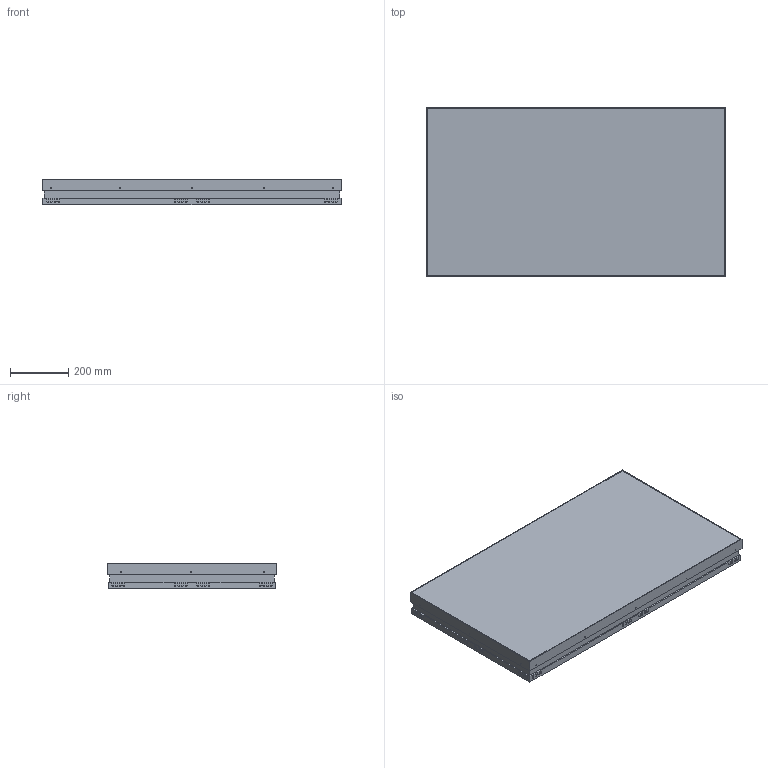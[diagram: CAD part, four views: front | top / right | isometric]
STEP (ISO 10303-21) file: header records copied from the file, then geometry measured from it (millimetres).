
FILE_DESCRIPTION (( 'STEP AP214' ), '1' );
FILE_NAME ('AD 46 Simplified.STEP', '2012-09-11T17:34:15', ( 'landesk' ), ( 'Microsoft' ), 'SwSTEP 2.0', 'SolidWorks 2012', '' );
FILE_SCHEMA (( 'AUTOMOTIVE_DESIGN' ));
Length unit declared in the file: millimetre
Products named in the file (1): AD 46 Simplified
Bounding box: 1025.68 x 580.27 x 88.9 mm (x, y, z)
Volume: 51809145.2 mm3; surface area: 1508608 mm2
Topology: 1 solids, 1 shells, 393 faces, 1120 edges, 720 vertices
Faces by surface type: plane 229, cylinder 132, cone 32
Entity records: 12618 total; most frequent: CARTESIAN_POINT 2202, ORIENTED_EDGE 2176, DIRECTION 2140, EDGE_CURVE 1088, VECTOR 824, LINE 824, VERTEX_POINT 720, AXIS2_PLACEMENT_3D 658
